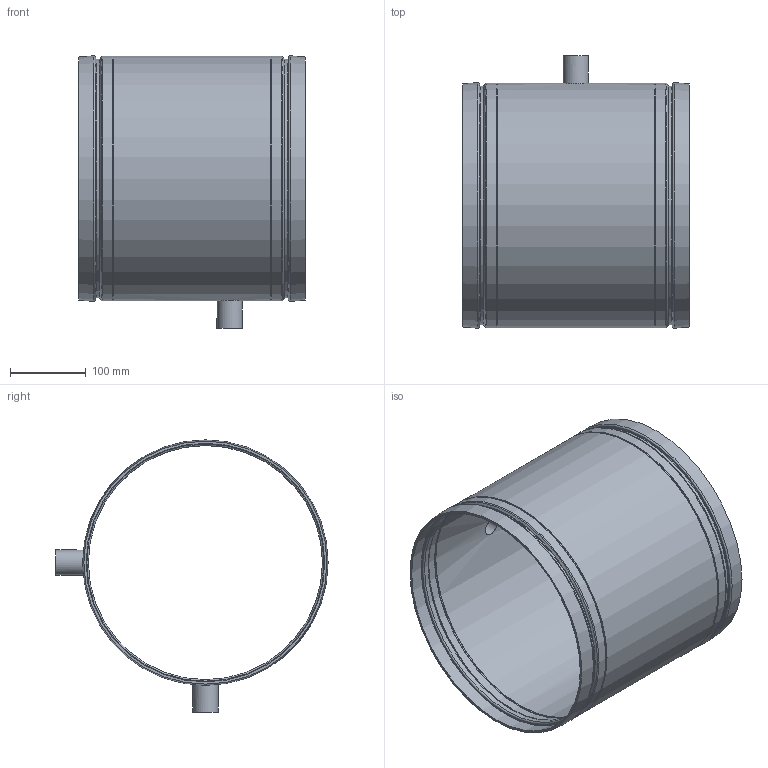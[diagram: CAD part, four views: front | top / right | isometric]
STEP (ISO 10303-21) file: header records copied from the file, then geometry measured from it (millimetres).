
FILE_DESCRIPTION(/* description */ ('VIC STRENGTHIN NIPPLE No E494I','CAx-IF Rec.Pracs.---Representation and Presentation of Product Manufacturing Information (PMI)---4.0---2014-10-13'),/* implementation_level */ '2;1');
FILE_NAME(/* name */ 'C:\ST100\STEP\Victaulic_SS-StrengThin 100_Nipple Instrumentation_No E494I (ST1)\Victaulic_SS-StrengThin 100_Nipple Instrumentation_No E494I (ST1)_12 (300).stp',/* time_stamp */ '2021-06-17T18:16:42+06:00',/* author */ ('kkamble'),/* organization */ ('Victaulic'),/* preprocessor_version */ 'ST-DEVELOPER v17.2',/* originating_system */ 'Autodesk Inventor 2019',/* authorisation */ '');
FILE_SCHEMA (('AP242_MANAGED_MODEL_BASED_3D_ENGINEERING_MIM_LF { 1 0 10303 442 1 1 4 }'));
Length unit declared in the file: inch
Products named in the file (1): E494I-12.0
Bounding box: 299.72 x 360.5 x 360.5 mm (x, y, z)
Volume: 985802.6 mm3; surface area: 642414.5 mm2
Topology: 1 solids, 1 shells, 60 faces, 196 edges, 146 vertices
Faces by surface type: torus 26, cylinder 16, plane 10, cone 8
Full cylindrical faces by diameter (mm): 21.336 x2, 26.67 x2, 33.401 x2, 309.88 x2, 315.976 x2, 317.754 x3, 323.85 x3
Entity records: 2720 total; most frequent: CARTESIAN_POINT 620, DIRECTION 500, ORIENTED_EDGE 392, AXIS2_PLACEMENT_3D 238, EDGE_CURVE 196, CIRCLE 164, VERTEX_POINT 146, EDGE_LOOP 74
